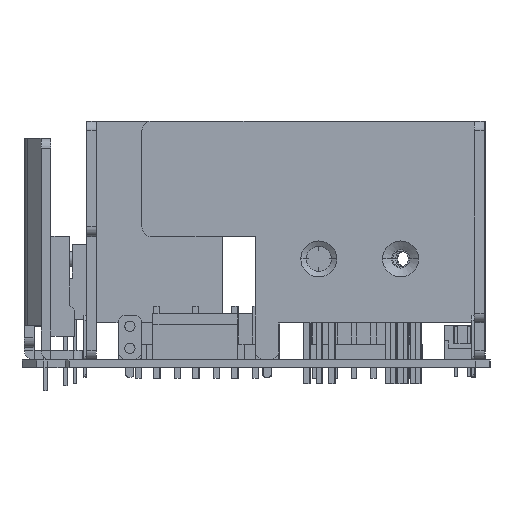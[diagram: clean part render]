
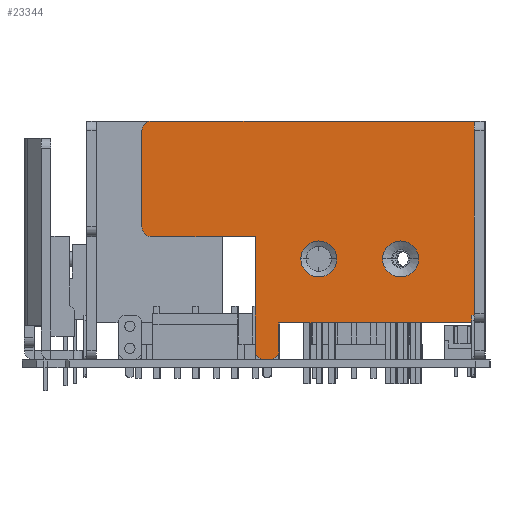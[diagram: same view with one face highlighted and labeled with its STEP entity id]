
A CAD part, left-side view. The second image highlights one B-rep face of the part: STEP entity #23344.
In plain terms, the highlighted planar face has unit normal (-1, 0, 0).
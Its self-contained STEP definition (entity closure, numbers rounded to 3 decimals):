
#22668=DIRECTION('',(0.,-1.,0.));
#22669=VECTOR('',#22668,65.5);
#22670=CARTESIAN_POINT('',(-2.,-2.,-48.5));
#22671=LINE('',#22670,#22669);
#22672=CARTESIAN_POINT('',(-2.,-33.6,-20.5));
#22673=DIRECTION('',(1.,0.,0.));
#22674=DIRECTION('',(0.,1.,0.));
#22675=AXIS2_PLACEMENT_3D('',#22672,#22673,#22674);
#22677=CARTESIAN_POINT('',(-2.,-33.6,-20.5));
#22678=DIRECTION('',(1.,0.,0.));
#22679=DIRECTION('',(0.,-1.,0.));
#22680=AXIS2_PLACEMENT_3D('',#22677,#22678,#22679);
#22682=CARTESIAN_POINT('',(-2.,-17.,-20.5));
#22683=DIRECTION('',(1.,0.,0.));
#22684=DIRECTION('',(0.,1.,0.));
#22685=AXIS2_PLACEMENT_3D('',#22682,#22683,#22684);
#22687=CARTESIAN_POINT('',(-2.,-17.,-20.5));
#22688=DIRECTION('',(1.,0.,0.));
#22689=DIRECTION('',(0.,-1.,0.));
#22690=AXIS2_PLACEMENT_3D('',#22687,#22688,#22689);
#22692=DIRECTION('',(0.,-1.,0.));
#22693=VECTOR('',#22692,0.8);
#22694=CARTESIAN_POINT('',(-2.,-43.7,0.));
#22695=LINE('',#22694,#22693);
#22696=CARTESIAN_POINT('',(-2.,-44.5,-2.));
#22697=DIRECTION('',(-1.,0.,0.));
#22698=DIRECTION('',(0.,-1.,0.));
#22699=AXIS2_PLACEMENT_3D('',#22696,#22697,#22698);
#22701=DIRECTION('',(0.,0.,-1.));
#22702=VECTOR('',#22701,23.);
#22703=CARTESIAN_POINT('',(-2.,-46.5,-2.));
#22704=LINE('',#22703,#22702);
#22705=DIRECTION('',(0.,1.,0.));
#22706=VECTOR('',#22705,21.);
#22707=CARTESIAN_POINT('',(-2.,-67.5,-25.));
#22708=LINE('',#22707,#22706);
#22709=CARTESIAN_POINT('',(-2.,-67.5,-27.));
#22710=DIRECTION('',(-1.,0.,0.));
#22711=DIRECTION('',(0.,-1.,0.));
#22712=AXIS2_PLACEMENT_3D('',#22709,#22710,#22711);
#22714=DIRECTION('',(0.,0.,1.));
#22715=VECTOR('',#22714,19.5);
#22716=CARTESIAN_POINT('',(-2.,-69.5,-46.5));
#22717=LINE('',#22716,#22715);
#22718=CARTESIAN_POINT('',(-2.,-67.5,-46.5));
#22719=DIRECTION('',(-1.,0.,0.));
#22720=DIRECTION('',(0.,0.,-1.));
#22721=AXIS2_PLACEMENT_3D('',#22718,#22719,#22720);
#22723=DIRECTION('',(0.,0.,1.));
#22724=VECTOR('',#22723,41.);
#22725=CARTESIAN_POINT('',(-2.,-2.,-48.5));
#22726=LINE('',#22725,#22724);
#22727=DIRECTION('',(0.,-1.,0.));
#22728=VECTOR('',#22727,39.7);
#22729=CARTESIAN_POINT('',(-2.,-2.,-7.5));
#22730=LINE('',#22729,#22728);
#22731=DIRECTION('',(0.,0.,-1.));
#22732=VECTOR('',#22731,5.5);
#22733=CARTESIAN_POINT('',(-2.,-41.7,-2.));
#22734=LINE('',#22733,#22732);
#22735=CARTESIAN_POINT('',(-2.,-43.7,-2.));
#22736=DIRECTION('',(-1.,0.,0.));
#22737=DIRECTION('',(0.,0.,1.));
#22738=AXIS2_PLACEMENT_3D('',#22735,#22736,#22737);
#22948=CARTESIAN_POINT('',(-2.,-2.,-48.5));
#22949=VERTEX_POINT('',#22948);
#22959=CARTESIAN_POINT('',(-2.,-2.,-7.5));
#22961=VERTEX_POINT('',#22959);
#22962=CARTESIAN_POINT('',(-2.,-41.7,-7.5));
#22963=VERTEX_POINT('',#22962);
#22988=CARTESIAN_POINT('',(-2.,-43.7,0.));
#22989=CARTESIAN_POINT('',(-2.,-44.5,0.));
#22990=VERTEX_POINT('',#22988);
#22991=VERTEX_POINT('',#22989);
#23000=CARTESIAN_POINT('',(-2.,-29.95,-20.5));
#23001=CARTESIAN_POINT('',(-2.,-37.25,-20.5));
#23002=VERTEX_POINT('',#23000);
#23003=VERTEX_POINT('',#23001);
#23008=CARTESIAN_POINT('',(-2.,-13.35,-20.5));
#23009=CARTESIAN_POINT('',(-2.,-20.65,-20.5));
#23010=VERTEX_POINT('',#23008);
#23011=VERTEX_POINT('',#23009);
#23016=CARTESIAN_POINT('',(-2.,-46.5,-25.));
#23018=VERTEX_POINT('',#23016);
#23022=CARTESIAN_POINT('',(-2.,-46.5,-2.));
#23023=VERTEX_POINT('',#23022);
#23024=CARTESIAN_POINT('',(-2.,-67.5,-48.5));
#23025=CARTESIAN_POINT('',(-2.,-69.5,-46.5));
#23026=VERTEX_POINT('',#23024);
#23027=VERTEX_POINT('',#23025);
#23032=CARTESIAN_POINT('',(-2.,-69.5,-27.));
#23033=CARTESIAN_POINT('',(-2.,-67.5,-25.));
#23034=VERTEX_POINT('',#23032);
#23035=VERTEX_POINT('',#23033);
#23058=CARTESIAN_POINT('',(-2.,-41.7,-2.));
#23059=VERTEX_POINT('',#23058);
#23303=CARTESIAN_POINT('',(-2.,0.,0.));
#23304=DIRECTION('',(1.,0.,0.));
#23305=DIRECTION('',(0.,0.,1.));
#23306=AXIS2_PLACEMENT_3D('',#23303,#23304,#23305);
#23307=PLANE('',#23306);
#23309=ORIENTED_EDGE('',*,*,#23308,.T.);
#23311=ORIENTED_EDGE('',*,*,#23310,.F.);
#23313=ORIENTED_EDGE('',*,*,#23312,.T.);
#23315=ORIENTED_EDGE('',*,*,#23314,.F.);
#23317=ORIENTED_EDGE('',*,*,#23316,.F.);
#23319=ORIENTED_EDGE('',*,*,#23318,.F.);
#23320=ORIENTED_EDGE('',*,*,#23293,.F.);
#23321=ORIENTED_EDGE('',*,*,#23283,.F.);
#23323=ORIENTED_EDGE('',*,*,#23322,.T.);
#23325=ORIENTED_EDGE('',*,*,#23324,.T.);
#23327=ORIENTED_EDGE('',*,*,#23326,.F.);
#23329=ORIENTED_EDGE('',*,*,#23328,.F.);
#23330=EDGE_LOOP('',(#23309,#23311,#23313,#23315,#23317,#23319,#23320,#23321,
#23323,#23325,#23327,#23329));
#23331=FACE_OUTER_BOUND('',#23330,.F.);
#23333=ORIENTED_EDGE('',*,*,#23332,.F.);
#23335=ORIENTED_EDGE('',*,*,#23334,.F.);
#23336=EDGE_LOOP('',(#23333,#23335));
#23337=FACE_BOUND('',#23336,.F.);
#23339=ORIENTED_EDGE('',*,*,#23338,.F.);
#23341=ORIENTED_EDGE('',*,*,#23340,.F.);
#23342=EDGE_LOOP('',(#23339,#23341));
#23343=FACE_BOUND('',#23342,.F.);
#22676=CIRCLE('',#22675,3.65);
#22681=CIRCLE('',#22680,3.65);
#22686=CIRCLE('',#22685,3.65);
#22691=CIRCLE('',#22690,3.65);
#22700=CIRCLE('',#22699,2.);
#22713=CIRCLE('',#22712,2.);
#22722=CIRCLE('',#22721,2.);
#22739=CIRCLE('',#22738,2.);
#23283=EDGE_CURVE('',#22949,#23026,#22671,.T.);
#23293=EDGE_CURVE('',#23026,#23027,#22722,.T.);
#23308=EDGE_CURVE('',#22990,#22991,#22695,.T.);
#23310=EDGE_CURVE('',#23023,#22991,#22700,.T.);
#23312=EDGE_CURVE('',#23023,#23018,#22704,.T.);
#23314=EDGE_CURVE('',#23035,#23018,#22708,.T.);
#23316=EDGE_CURVE('',#23034,#23035,#22713,.T.);
#23318=EDGE_CURVE('',#23027,#23034,#22717,.T.);
#23322=EDGE_CURVE('',#22949,#22961,#22726,.T.);
#23324=EDGE_CURVE('',#22961,#22963,#22730,.T.);
#23326=EDGE_CURVE('',#23059,#22963,#22734,.T.);
#23328=EDGE_CURVE('',#22990,#23059,#22739,.T.);
#23332=EDGE_CURVE('',#23010,#23011,#22686,.T.);
#23334=EDGE_CURVE('',#23011,#23010,#22691,.T.);
#23338=EDGE_CURVE('',#23002,#23003,#22676,.T.);
#23340=EDGE_CURVE('',#23003,#23002,#22681,.T.);
#23344=ADVANCED_FACE('',(#23331,#23337,#23343),#23307,.F.);
